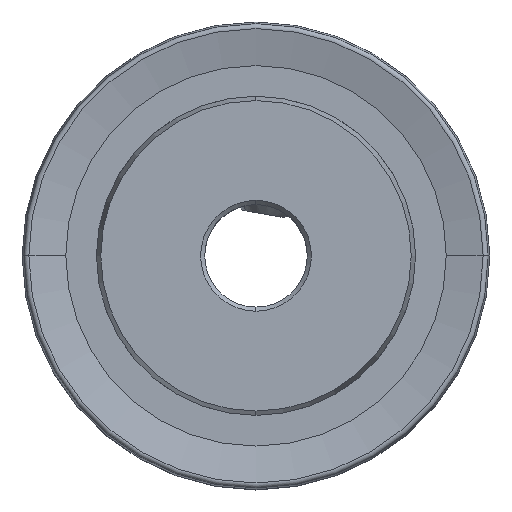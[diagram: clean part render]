
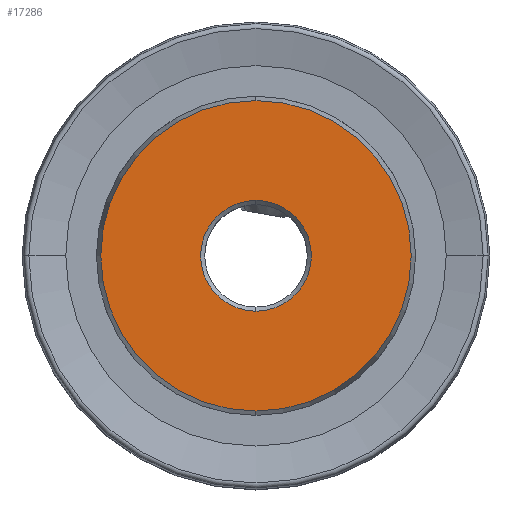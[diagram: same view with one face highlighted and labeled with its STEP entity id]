
A CAD part, top view. The second image highlights one B-rep face of the part: STEP entity #17286.
In plain terms, the highlighted planar face has unit normal (0, 0, 1).
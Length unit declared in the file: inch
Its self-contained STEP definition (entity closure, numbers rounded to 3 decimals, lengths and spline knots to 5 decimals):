
#1257 = EDGE_LOOP ( 'NONE', ( #5016, #5132 ) ) ;
#1679 = CIRCLE ( 'NONE', #16140, 0.135 ) ;
#1739 = EDGE_LOOP ( 'NONE', ( #10472, #12070 ) ) ;
#2706 = VERTEX_POINT ( 'NONE', #10441 ) ;
#2916 = CARTESIAN_POINT ( 'NONE',  ( 0., 0., 0.25005 ) ) ;
#3401 = CIRCLE ( 'NONE', #3631, 0.135 ) ;
#3631 = AXIS2_PLACEMENT_3D ( 'NONE', #2916, #12903, #14363 ) ;
#3686 = VERTEX_POINT ( 'NONE', #12097 ) ;
#4080 = FACE_BOUND ( 'NONE', #1739, .T. ) ;
#4113 = CARTESIAN_POINT ( 'NONE',  ( 0., 0., 0.25005 ) ) ;
#4995 = VERTEX_POINT ( 'NONE', #6411 ) ;
#5016 = ORIENTED_EDGE ( 'NONE', *, *, #16606, .T. ) ;
#5132 = ORIENTED_EDGE ( 'NONE', *, *, #16885, .T. ) ;
#5655 = CIRCLE ( 'NONE', #5969, 0.37844 ) ;
#5753 = CARTESIAN_POINT ( 'NONE',  ( 0., 0., 0.25005 ) ) ;
#5969 = AXIS2_PLACEMENT_3D ( 'NONE', #5753, #18469, #17238 ) ;
#6340 = EDGE_CURVE ( 'NONE', #3686, #2706, #1679, .T. ) ;
#6411 = CARTESIAN_POINT ( 'NONE',  ( 0., -0.37844, 0.25005 ) ) ;
#7413 = DIRECTION ( 'NONE',  ( 0., -1., 0. ) ) ;
#7902 = FACE_OUTER_BOUND ( 'NONE', #1257, .T. ) ;
#8338 = PLANE ( 'NONE',  #8858 ) ;
#8839 = CARTESIAN_POINT ( 'NONE',  ( 0., 0., 0.25005 ) ) ;
#8858 = AXIS2_PLACEMENT_3D ( 'NONE', #4113, #12628, #12518 ) ;
#9110 = AXIS2_PLACEMENT_3D ( 'NONE', #9205, #10634, #13380 ) ;
#9205 = CARTESIAN_POINT ( 'NONE',  ( 0., 0., 0.25005 ) ) ;
#9402 = VERTEX_POINT ( 'NONE', #9972 ) ;
#9972 = CARTESIAN_POINT ( 'NONE',  ( 0., 0.37844, 0.25005 ) ) ;
#10441 = CARTESIAN_POINT ( 'NONE',  ( 0., 0.135, 0.25005 ) ) ;
#10472 = ORIENTED_EDGE ( 'NONE', *, *, #6340, .T. ) ;
#10634 = DIRECTION ( 'NONE',  ( 0., 0., 1. ) ) ;
#12070 = ORIENTED_EDGE ( 'NONE', *, *, #14623, .T. ) ;
#12097 = CARTESIAN_POINT ( 'NONE',  ( 0., -0.135, 0.25005 ) ) ;
#12518 = DIRECTION ( 'NONE',  ( 0., 1., 0. ) ) ;
#12628 = DIRECTION ( 'NONE',  ( 0., 0., 1. ) ) ;
#12903 = DIRECTION ( 'NONE',  ( 0., 0., -1. ) ) ;
#13073 = DIRECTION ( 'NONE',  ( 0., 0., -1. ) ) ;
#13380 = DIRECTION ( 'NONE',  ( 0., -1., 0. ) ) ;
#14363 = DIRECTION ( 'NONE',  ( 0., -1., 0. ) ) ;
#14623 = EDGE_CURVE ( 'NONE', #2706, #3686, #3401, .T. ) ;
#16140 = AXIS2_PLACEMENT_3D ( 'NONE', #8839, #13073, #7413 ) ;
#16606 = EDGE_CURVE ( 'NONE', #9402, #4995, #5655, .T. ) ;
#16885 = EDGE_CURVE ( 'NONE', #4995, #9402, #18352, .T. ) ;
#17238 = DIRECTION ( 'NONE',  ( 0., -1., 0. ) ) ;
#17286 = ADVANCED_FACE ( 'NONE', ( #7902, #4080 ), #8338, .T. ) ;
#18352 = CIRCLE ( 'NONE', #9110, 0.37844 ) ;
#18469 = DIRECTION ( 'NONE',  ( 0., 0., 1. ) ) ;
